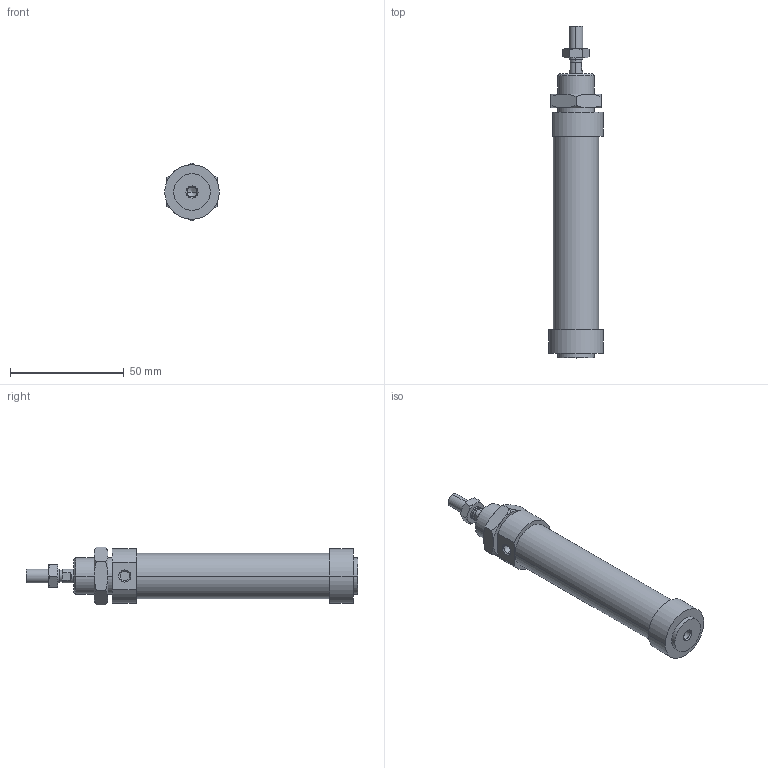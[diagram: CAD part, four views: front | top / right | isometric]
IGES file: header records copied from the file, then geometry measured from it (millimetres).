
Global section: file name: No Iges File Name specified; native system: AutoDesk Inventor R6.0; preprocessor: AutoDesk Inventor Iges Exporter R6.0; author: No Author specified; organization: No Organization specified; date: 20030402.184144; units: millimetre
Bounding box: 24 x 146 x 25.4 mm (x, y, z)
Volume: 42003.2 mm3; surface area: 13988.3 mm2
Topology: 4 solids, 4 shells, 108 faces, 229 edges, 135 vertices
Faces by surface type: cone 34, plane 33, bspline 21, cylinder 16, revolution 4
